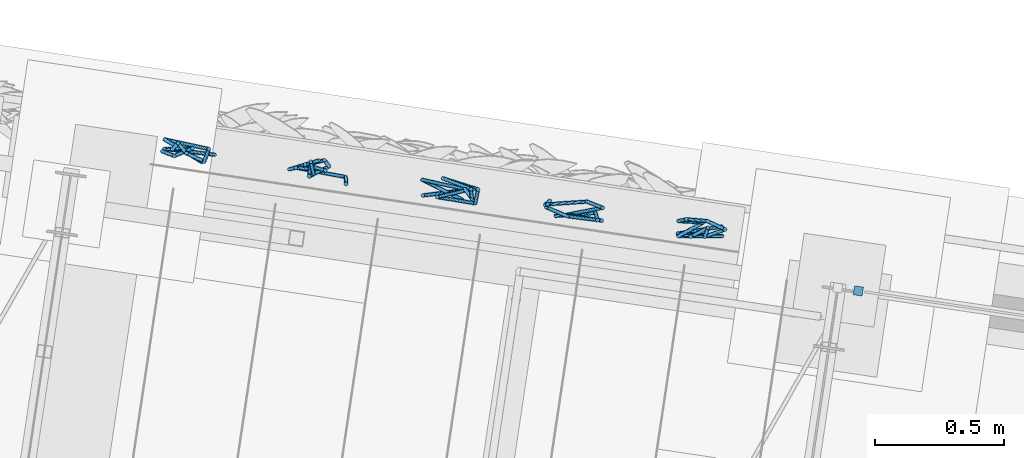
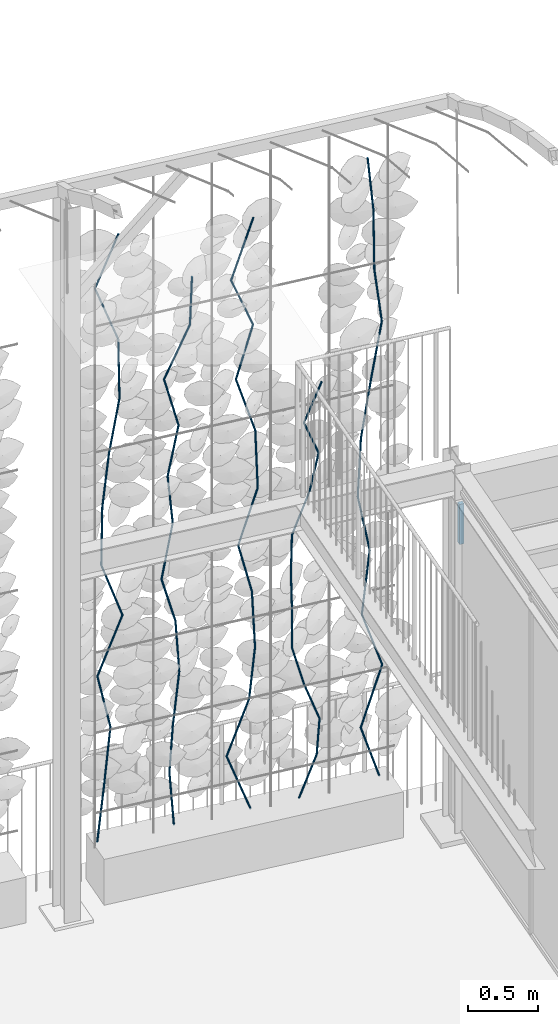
# One storey, part 113 of 142: 56 members, 1 element without a shape of its own.
"""IFC4 building model written with IfcOpenShell, lengths in metres."""

from ifc_helpers import new_model, si_unit, direction, frame, origin_with_axes, place, context, subcontext, project, spatial, rectangle, circle, extrude, material, material_profile, profile_set, profile_usage, type_object, element, aggregate, save


model = new_model("IFC4")

# Units and contexts
model_context = context("Model", 3, precision=1e-05, world=origin_with_axes(), true_north=direction((0.0, 1.0)))
body_context = subcontext(model_context, "Body", "Model", "MODEL_VIEW")
ifc_project = project(units=[si_unit("AREAUNIT", "SQUARE_METRE"), si_unit("VOLUMEUNIT", "CUBIC_METRE"), si_unit("LENGTHUNIT", "METRE")], contexts=[model_context])

# Site, building, storey
site_placement = place(None, origin_with_axes())
site = spatial("IfcSite", under=ifc_project, at=site_placement, Name="Lares · Rua das Mercês · artigo 4771")
building_placement = place(site_placement, frame((15.0, 9.7, 14.65), z_axis=(0.0, 0.0, 1.0), x_axis=(0.989015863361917, -0.147809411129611, 0.0)))
building = spatial("IfcBuilding", under=site, at=building_placement, Name="Casa Sobreposta")
storey_placement = place(building_placement, origin_with_axes())
storey = spatial("IfcBuildingStorey", under=building, at=storey_placement, Name="00 · Habitação e estacionamento", Elevation=14.65)

# Member
ifc_material_1 = material(Name="Aço pintado / Stahl lackiert", Category="steel")
ifc_material_profile_1 = material_profile(ifc_material_1, rectangle(XDim=0.035, YDim=0.035))
ifc_profile_set_1 = profile_set([ifc_material_profile_1], Name="R0.035")
ifc_profile_usage_1 = profile_usage(ifc_profile_set_1)
member_type_1 = type_object("IfcMemberType", Name="R0.035 / steel", PredefinedType="NOTDEFINED", material=ifc_profile_set_1)
member_1_placement = place(storey_placement, frame((0.08, 6.4, 2.35), z_axis=(0.0, 0.0, 1.0), x_axis=(1.0, 0.0, 0.0)))
element("IfcMember", 1, at=member_1_placement, inside=storey, type_object=member_type_1, material=ifc_profile_usage_1, Name="Rasgo norte 1 · montante", context=body_context, shape_type="SweptSolid", body=[
    extrude(rectangle(XDim=0.035, YDim=0.035), origin_with_axes(), (0.0, 0.0, 1.0), 0.35),
])

# Assembly, members
assembly_placement = place(storey_placement, origin_with_axes())
assembly = element("IfcElementAssembly", 2, at=assembly_placement, inside=storey, Name="Fachada sul e pátio · estrutura e trepadeiras", ObjectType="LIVING_SHADE_TRELLIS", PredefinedType="USERDEFINED")
ifc_material_2 = material(Name="Ramos de trepadeiras", Category="wood")
ifc_material_profile_2 = material_profile(ifc_material_2, circle(Radius=0.0075))
ifc_profile_set_2 = profile_set([ifc_material_profile_2], Name="D0.015")
ifc_profile_usage_2 = profile_usage(ifc_profile_set_2)
member_type_2 = type_object("IfcMemberType", Name="D0.015 / vine_wood", PredefinedType="NOTDEFINED", material=ifc_profile_set_2)
member_2_placement = place(assembly_placement, frame((-2.66241995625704, 6.53629999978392, 0.35), z_axis=(0.0980987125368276, -0.0226170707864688, 0.994919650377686), x_axis=(-0.224660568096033, -0.974437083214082, 0.0)))
member_2 = element("IfcMember", 3, at=member_2_placement, type_object=member_type_2, material=ifc_profile_usage_2, Name="Trepadeiras · ramo", context=body_context, shape_type="SweptSolid", body=[
    extrude(circle(Radius=0.0075), origin_with_axes(), (0.0, 0.0, 1.0), 0.482973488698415),
])
ifc_profile_usage_3 = profile_usage(ifc_profile_set_2)
member_3_placement = place(assembly_placement, frame((-2.61504087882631, 6.52537655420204, 0.830519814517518), z_axis=(0.135008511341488, 0.0817946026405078, 0.987462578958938), x_axis=(0.518168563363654, -0.855278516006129, 0.0)))
member_3 = element("IfcMember", 4, at=member_3_placement, type_object=member_type_2, material=ifc_profile_usage_3, Name="Trepadeiras · ramo", context=body_context, shape_type="SweptSolid", body=[
    extrude(circle(Radius=0.0075), origin_with_axes(), (0.0, 0.0, 1.0), 0.486620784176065),
])
ifc_profile_usage_4 = profile_usage(ifc_profile_set_2)
member_4_placement = place(assembly_placement, frame((-2.54934293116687, 6.56517950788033, 1.31103962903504), z_axis=(-0.218609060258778, -0.0389522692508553, 0.975034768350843), x_axis=(-0.17541938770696, 0.984493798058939, 0.0)))
member_4 = element("IfcMember", 5, at=member_4_placement, type_object=member_type_2, material=ifc_profile_usage_4, Name="Trepadeiras · ramo", context=body_context, shape_type="SweptSolid", body=[
    extrude(circle(Radius=0.0075), origin_with_axes(), (0.0, 0.0, 1.0), 0.492823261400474),
])
ifc_profile_usage_5 = profile_usage(ifc_profile_set_2)
member_5_placement = place(assembly_placement, frame((-2.65707856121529, 6.54598292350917, 1.79155944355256), z_axis=(0.376987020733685, 0.0134283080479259, 0.926121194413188), x_axis=(0.0355975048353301, -0.999366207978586, 0.0)))
member_5 = element("IfcMember", 6, at=member_5_placement, type_object=member_type_2, material=ifc_profile_usage_5, Name="Trepadeiras · ramo", context=body_context, shape_type="SweptSolid", body=[
    extrude(circle(Radius=0.0075), origin_with_axes(), (0.0, 0.0, 1.0), 0.518851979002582),
])
ifc_profile_usage_6 = profile_usage(ifc_profile_set_2)
member_6_placement = place(assembly_placement, frame((-2.46147809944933, 6.5529502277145, 2.27207925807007), z_axis=(-0.323902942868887, -0.0066980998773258, 0.946066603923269), x_axis=(-0.0206749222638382, 0.999786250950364, 0.0)))
member_6 = element("IfcMember", 7, at=member_6_placement, type_object=member_type_2, material=ifc_profile_usage_6, Name="Trepadeiras · ramo", context=body_context, shape_type="SweptSolid", body=[
    extrude(circle(Radius=0.0075), origin_with_axes(), (0.0, 0.0, 1.0), 0.507913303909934),
])
ifc_profile_usage_7 = profile_usage(ifc_profile_set_2)
member_7_placement = place(assembly_placement, frame((-2.62599271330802, 6.54954817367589, 2.75259907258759), z_axis=(0.0384024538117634, 0.0563066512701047, 0.997674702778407), x_axis=(0.826148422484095, -0.563452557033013, 0.0)))
member_7 = element("IfcMember", 8, at=member_7_placement, type_object=member_type_2, material=ifc_profile_usage_7, Name="Trepadeiras · ramo", context=body_context, shape_type="SweptSolid", body=[
    extrude(circle(Radius=0.0075), origin_with_axes(), (0.0, 0.0, 1.0), 0.481639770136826),
])
ifc_profile_usage_8 = profile_usage(ifc_profile_set_2)
member_8_placement = place(assembly_placement, frame((-2.60749656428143, 6.57666769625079, 3.23311888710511), z_axis=(0.0776410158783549, -0.0701661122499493, 0.994509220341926), x_axis=(-0.670490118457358, -0.741918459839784, 0.0)))
member_8 = element("IfcMember", 9, at=member_8_placement, type_object=member_type_2, material=ifc_profile_usage_8, Name="Trepadeiras · ramo", context=body_context, shape_type="SweptSolid", body=[
    extrude(circle(Radius=0.0075), origin_with_axes(), (0.0, 0.0, 1.0), 0.483172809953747),
])
ifc_profile_usage_9 = profile_usage(ifc_profile_set_2)
member_9_placement = place(assembly_placement, frame((-2.56998253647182, 6.54276533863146, 3.71363870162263), z_axis=(0.149871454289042, -0.0436983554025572, 0.987739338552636), x_axis=(-0.279916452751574, -0.960024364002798, 0.0)))
member_9 = element("IfcMember", 10, at=member_9_placement, type_object=member_type_2, material=ifc_profile_usage_9, Name="Trepadeiras · ramo", context=body_context, shape_type="SweptSolid", body=[
    extrude(circle(Radius=0.0075), origin_with_axes(), (0.0, 0.0, 1.0), 0.486484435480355),
])
ifc_profile_usage_10 = profile_usage(ifc_profile_set_2)
member_10_placement = place(assembly_placement, frame((-2.4970724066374, 6.52150676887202, 4.19415851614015), z_axis=(0.021645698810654, 0.103291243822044, 0.994415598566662), x_axis=(0.978740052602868, -0.205104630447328, 0.0)))
member_10 = element("IfcMember", 11, at=member_10_placement, type_object=member_type_2, material=ifc_profile_usage_10, Name="Trepadeiras · ramo", context=body_context, shape_type="SweptSolid", body=[
    extrude(circle(Radius=0.0075), origin_with_axes(), (0.0, 0.0, 1.0), 0.483218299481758),
])
ifc_profile_usage_11 = profile_usage(ifc_profile_set_2)
member_11_placement = place(assembly_placement, frame((-2.48661280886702, 6.57141898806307, 4.67467833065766), z_axis=(-0.34084918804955, 0.0223344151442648, 0.939852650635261), x_axis=(0.0653855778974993, 0.997860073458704, 0.0)))
member_11 = element("IfcMember", 12, at=member_11_placement, type_object=member_type_2, material=ifc_profile_usage_11, Name="Trepadeiras · ramo", context=body_context, shape_type="SweptSolid", body=[
    extrude(circle(Radius=0.0075), origin_with_axes(), (0.0, 0.0, 1.0), 0.511271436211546),
])
ifc_profile_usage_12 = profile_usage(ifc_profile_set_2)
member_12_placement = place(assembly_placement, frame((-2.66087926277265, 6.58283793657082, 5.15519814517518), z_axis=(0.304730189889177, -0.127303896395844, 0.943892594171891), x_axis=(-0.385474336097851, -0.92271855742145, 0.0)))
member_12 = element("IfcMember", 13, at=member_12_placement, type_object=member_type_2, material=ifc_profile_usage_12, Name="Trepadeiras · ramo", context=body_context, shape_type="SweptSolid", body=[
    extrude(circle(Radius=0.0075), origin_with_axes(), (0.0, 0.0, 1.0), 0.509083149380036),
])
ifc_profile_usage_13 = profile_usage(ifc_profile_set_2)
member_13_placement = place(assembly_placement, frame((-2.07205180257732, 6.53766977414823, 0.35), z_axis=(-0.0394783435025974, 0.10080487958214, 0.99412264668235), x_axis=(0.931139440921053, 0.364663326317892, 0.0)))
member_13 = element("IfcMember", 14, at=member_13_placement, type_object=member_type_2, material=ifc_profile_usage_13, Name="Trepadeiras · ramo", context=body_context, shape_type="SweptSolid", body=[
    extrude(circle(Radius=0.0075), origin_with_axes(), (0.0, 0.0, 1.0), 0.435980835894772),
])
ifc_profile_usage_14 = profile_usage(ifc_profile_set_2)
member_14_placement = place(assembly_placement, frame((-2.08926360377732, 6.58161876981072, 0.783418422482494), z_axis=(0.00546412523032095, -0.131646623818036, 0.991281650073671), x_axis=(-0.999139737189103, -0.0414702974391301, 0.0)))
member_14 = element("IfcMember", 15, at=member_14_placement, type_object=member_type_2, material=ifc_profile_usage_14, Name="Trepadeiras · ramo", context=body_context, shape_type="SweptSolid", body=[
    extrude(circle(Radius=0.0075), origin_with_axes(), (0.0, 0.0, 1.0), 0.437230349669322),
])
ifc_profile_usage_15 = profile_usage(ifc_profile_set_2)
member_15_placement = place(assembly_placement, frame((-2.08687452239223, 6.52405887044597, 1.21683684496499), z_axis=(0.159219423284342, 0.113560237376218, 0.980690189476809), x_axis=(0.580669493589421, -0.814139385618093, 0.0)))
member_15 = element("IfcMember", 16, at=member_15_placement, type_object=member_type_2, material=ifc_profile_usage_15, Name="Trepadeiras · ramo", context=body_context, shape_type="SweptSolid", body=[
    extrude(circle(Radius=0.0075), origin_with_axes(), (0.0, 0.0, 1.0), 0.441952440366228),
])
ifc_profile_usage_16 = profile_usage(ifc_profile_set_2)
member_16_placement = place(assembly_placement, frame((-2.01650710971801, 6.57424709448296, 1.65025526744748), z_axis=(-0.0483811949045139, 0.0474077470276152, 0.997703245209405), x_axis=(0.699884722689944, 0.714255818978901, 0.0)))
member_16 = element("IfcMember", 17, at=member_16_placement, type_object=member_type_2, material=ifc_profile_usage_16, Name="Trepadeiras · ramo", context=body_context, shape_type="SweptSolid", body=[
    extrude(circle(Radius=0.0075), origin_with_axes(), (0.0, 0.0, 1.0), 0.434416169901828),
])
ifc_profile_usage_17 = profile_usage(ifc_profile_set_2)
member_17_placement = place(assembly_placement, frame((-2.03752468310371, 6.59484178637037, 2.08367368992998), z_axis=(-0.28279176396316, -0.120579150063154, 0.95157211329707), x_axis=(-0.392222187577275, 0.919870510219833, -2.14779037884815e-17)))
member_17 = element("IfcMember", 18, at=member_17_placement, type_object=member_type_2, material=ifc_profile_usage_17, Name="Trepadeiras · ramo", context=body_context, shape_type="SweptSolid", body=[
    extrude(circle(Radius=0.0075), origin_with_axes(), (0.0, 0.0, 1.0), 0.455476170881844),
])
ifc_profile_usage_18 = profile_usage(ifc_profile_set_2)
member_18_placement = place(assembly_placement, frame((-2.16632959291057, 6.53992085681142, 2.51709211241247), z_axis=(0.235859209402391, 0.111435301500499, 0.965376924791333), x_axis=(0.427186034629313, -0.904163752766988, 0.0)))
member_18 = element("IfcMember", 19, at=member_18_placement, type_object=member_type_2, material=ifc_profile_usage_18, Name="Trepadeiras · ramo", context=body_context, shape_type="SweptSolid", body=[
    extrude(circle(Radius=0.0075), origin_with_axes(), (0.0, 0.0, 1.0), 0.448962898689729),
])
ifc_profile_usage_19 = profile_usage(ifc_profile_set_2)
member_19_placement = place(assembly_placement, frame((-2.0604375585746, 6.58995117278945, 2.95051053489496), z_axis=(-0.110181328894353, -0.0517286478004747, 0.992564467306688), x_axis=(-0.424980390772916, 0.905202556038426, 0.0)))
member_19 = element("IfcMember", 20, at=member_19_placement, type_object=member_type_2, material=ifc_profile_usage_19, Name="Trepadeiras · ramo", context=body_context, shape_type="SweptSolid", body=[
    extrude(circle(Radius=0.0075), origin_with_axes(), (0.0, 0.0, 1.0), 0.436665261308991),
])
ifc_profile_usage_20 = profile_usage(ifc_profile_set_2)
member_20_placement = place(assembly_placement, frame((-2.10854991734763, 6.56736306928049, 3.38392895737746), z_axis=(0.180465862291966, -0.0257609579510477, 0.983243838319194), x_axis=(-0.141314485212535, -0.989964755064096, 0.0)))
member_20 = element("IfcMember", 21, at=member_20_placement, type_object=member_type_2, material=ifc_profile_usage_20, Name="Trepadeiras · ramo", context=body_context, shape_type="SweptSolid", body=[
    extrude(circle(Radius=0.0075), origin_with_axes(), (0.0, 0.0, 1.0), 0.440804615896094),
])
ifc_profile_usage_21 = profile_usage(ifc_profile_set_2)
member_21_placement = place(assembly_placement, frame((-2.02899973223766, 6.55600752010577, 3.81734737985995), z_axis=(-0.254599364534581, -0.0136352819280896, 0.966950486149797), x_axis=(-0.053479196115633, 0.998568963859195, 0.0)))
member_21 = element("IfcMember", 22, at=member_21_placement, type_object=member_type_2, material=ifc_profile_usage_21, Name="Trepadeiras · ramo", context=body_context, shape_type="SweptSolid", body=[
    extrude(circle(Radius=0.0075), origin_with_axes(), (0.0, 0.0, 1.0), 0.448232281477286),
])
ifc_profile_usage_22 = profile_usage(ifc_profile_set_2)
member_22_placement = place(assembly_placement, frame((-2.14311938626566, 6.54989574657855, 4.25076580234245), z_axis=(0.413277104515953, -0.0153882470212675, 0.910475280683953), x_axis=(-0.0372089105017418, -0.999307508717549, 1.90952884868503e-18)))
member_22 = element("IfcMember", 23, at=member_22_placement, type_object=member_type_2, material=ifc_profile_usage_22, Name="Trepadeiras · ramo", context=body_context, shape_type="SweptSolid", body=[
    extrude(circle(Radius=0.0075), origin_with_axes(), (0.0, 0.0, 1.0), 0.476035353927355),
])
ifc_profile_usage_23 = profile_usage(ifc_profile_set_2)
member_23_placement = place(assembly_placement, frame((-1.94638487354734, 6.54257039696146, 4.68418422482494), z_axis=(0.0110075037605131, -0.061857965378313, 0.998024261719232), x_axis=(-0.984533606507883, -0.175195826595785, 0.0)))
member_23 = element("IfcMember", 24, at=member_23_placement, type_object=member_type_2, material=ifc_profile_usage_23, Name="Trepadeiras · ramo", context=body_context, shape_type="SweptSolid", body=[
    extrude(circle(Radius=0.0075), origin_with_axes(), (0.0, 0.0, 1.0), 0.434276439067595),
])
ifc_profile_usage_24 = profile_usage(ifc_profile_set_2)
member_24_placement = place(assembly_placement, frame((-1.4880449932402, 6.52300224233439, 0.35), z_axis=(-0.329931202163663, 0.106180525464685, 0.938014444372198), x_axis=(0.306352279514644, 0.951918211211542, 0.0)))
member_24 = element("IfcMember", 25, at=member_24_placement, type_object=member_type_2, material=ifc_profile_usage_24, Name="Trepadeiras · ramo", context=body_context, shape_type="SweptSolid", body=[
    extrude(circle(Radius=0.0075), origin_with_axes(), (0.0, 0.0, 1.0), 0.496490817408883),
])
ifc_profile_usage_25 = profile_usage(ifc_profile_set_2)
member_25_placement = place(assembly_placement, frame((-1.65185280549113, 6.57571989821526, 0.815715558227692), z_axis=(0.340456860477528, -0.0227078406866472, 0.939985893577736), x_axis=(-0.0665502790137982, -0.997783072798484, 0.0)))
member_25 = element("IfcMember", 26, at=member_25_placement, type_object=member_type_2, material=ifc_profile_usage_25, Name="Trepadeiras · ramo", context=body_context, shape_type="SweptSolid", body=[
    extrude(circle(Radius=0.0075), origin_with_axes(), (0.0, 0.0, 1.0), 0.495449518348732),
])
ifc_profile_usage_26 = profile_usage(ifc_profile_set_2)
member_26_placement = place(assembly_placement, frame((-1.48317361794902, 6.56446930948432, 1.28143111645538), z_axis=(0.0695333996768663, -0.0700445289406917, 0.995117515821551), x_axis=(-0.709691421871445, -0.704512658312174, 8.74520446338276e-18)))
member_26 = element("IfcMember", 27, at=member_26_placement, type_object=member_type_2, material=ifc_profile_usage_26, Name="Trepadeiras · ramo", context=body_context, shape_type="SweptSolid", body=[
    extrude(circle(Radius=0.0075), origin_with_axes(), (0.0, 0.0, 1.0), 0.468000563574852),
])
ifc_profile_usage_27 = profile_usage(ifc_profile_set_2)
member_27_placement = place(assembly_placement, frame((-1.45063194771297, 6.53168843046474, 1.74714667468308), z_axis=(-0.0210306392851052, 0.076673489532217, 0.996834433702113), x_axis=(0.964380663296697, 0.264518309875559, 0.0)))
member_27 = element("IfcMember", 28, at=member_27_placement, type_object=member_type_2, material=ifc_profile_usage_27, Name="Trepadeiras · ramo", context=body_context, shape_type="SweptSolid", body=[
    extrude(circle(Radius=0.0075), origin_with_axes(), (0.0, 0.0, 1.0), 0.467194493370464),
])
ifc_profile_usage_28 = profile_usage(ifc_profile_set_2)
member_28_placement = place(assembly_placement, frame((-1.46045734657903, 6.56750986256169, 2.21286223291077), z_axis=(-0.25756955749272, -0.101450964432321, 0.96091915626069), x_axis=(-0.366475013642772, 0.930427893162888, 0.0)))
member_28 = element("IfcMember", 29, at=member_28_placement, type_object=member_type_2, material=ifc_profile_usage_28, Name="Trepadeiras · ramo", context=body_context, shape_type="SweptSolid", body=[
    extrude(circle(Radius=0.0075), origin_with_axes(), (0.0, 0.0, 1.0), 0.484656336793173),
])
ifc_profile_usage_29 = profile_usage(ifc_profile_set_2)
member_29_placement = place(assembly_placement, frame((-1.58529006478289, 6.51834100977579, 2.67857779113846), z_axis=(0.305092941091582, -0.00422862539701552, 0.952313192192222), x_axis=(-0.0138587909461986, -0.999903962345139, 0.0)))
member_29 = element("IfcMember", 30, at=member_29_placement, type_object=member_type_2, material=ifc_profile_usage_29, Name="Trepadeiras · ramo", context=body_context, shape_type="SweptSolid", body=[
    extrude(circle(Radius=0.0075), origin_with_axes(), (0.0, 0.0, 1.0), 0.489036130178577),
])
ifc_profile_usage_30 = profile_usage(ifc_profile_set_2)
member_30_placement = place(assembly_placement, frame((-1.43608859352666, 6.51627305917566, 3.14429334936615), z_axis=(0.00592236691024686, 0.116385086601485, 0.993186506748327), x_axis=(0.998707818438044, -0.0508202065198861, 0.0)))
member_30 = element("IfcMember", 31, at=member_30_placement, type_object=member_type_2, material=ifc_profile_usage_30, Name="Trepadeiras · ramo", context=body_context, shape_type="SweptSolid", body=[
    extrude(circle(Radius=0.0075), origin_with_axes(), (0.0, 0.0, 1.0), 0.468910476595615),
])
ifc_profile_usage_31 = profile_usage(ifc_profile_set_2)
member_31_placement = place(assembly_placement, frame((-1.43331153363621, 6.57084724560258, 3.61000890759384), z_axis=(-0.287457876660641, 0.0458000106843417, 0.956697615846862), x_axis=(0.157343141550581, 0.987543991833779, 0.0)))
member_31 = element("IfcMember", 32, at=member_31_placement, type_object=member_type_2, material=ifc_profile_usage_31, Name="Trepadeiras · ramo", context=body_context, shape_type="SweptSolid", body=[
    extrude(circle(Radius=0.0075), origin_with_axes(), (0.0, 0.0, 1.0), 0.486794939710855),
])
ifc_profile_usage_32 = profile_usage(ifc_profile_set_2)
member_32_placement = place(assembly_placement, frame((-1.57324457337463, 6.59314245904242, 4.07572446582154), z_axis=(0.251593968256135, -0.0539595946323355, 0.966327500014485), x_axis=(-0.209702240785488, -0.977765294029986, 6.51461848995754e-18)))
member_32 = element("IfcMember", 33, at=member_32_placement, type_object=member_type_2, material=ifc_profile_usage_32, Name="Trepadeiras · ramo", context=body_context, shape_type="SweptSolid", body=[
    extrude(circle(Radius=0.0075), origin_with_axes(), (0.0, 0.0, 1.0), 0.481943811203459),
])
ifc_profile_usage_33 = profile_usage(ifc_profile_set_2)
member_33_placement = place(assembly_placement, frame((-1.45199041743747, 6.56713696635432, 4.54144002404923), z_axis=(-0.373949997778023, -0.10054929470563, 0.92198223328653), x_axis=(-0.259661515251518, 0.965699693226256, 0.0)))
member_33 = element("IfcMember", 34, at=member_33_placement, type_object=member_type_2, material=ifc_profile_usage_33, Name="Trepadeiras · ramo", context=body_context, shape_type="SweptSolid", body=[
    extrude(circle(Radius=0.0075), origin_with_axes(), (0.0, 0.0, 1.0), 0.505124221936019),
])
ifc_profile_usage_34 = profile_usage(ifc_profile_set_2)
member_34_placement = place(assembly_placement, frame((-1.64088161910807, 6.51634708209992, 5.00715558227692), z_axis=(0.381785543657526, 0.109148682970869, 0.917783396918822), x_axis=(0.274877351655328, -0.961479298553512, 0.0)))
member_34 = element("IfcMember", 35, at=member_34_placement, type_object=member_type_2, material=ifc_profile_usage_34, Name="Trepadeiras · ramo", context=body_context, shape_type="SweptSolid", body=[
    extrude(circle(Radius=0.0075), origin_with_axes(), (0.0, 0.0, 1.0), 0.507435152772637),
])
ifc_profile_usage_35 = profile_usage(ifc_profile_set_2)
member_35_placement = place(assembly_placement, frame((-1.12149175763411, 6.51383701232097, 0.35), z_axis=(0.419290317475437, 0.0947729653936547, 0.902891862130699), x_axis=(0.220470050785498, -0.975393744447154, 0.0)))
member_35 = element("IfcMember", 36, at=member_35_placement, type_object=member_type_2, material=ifc_profile_usage_35, Name="Trepadeiras · ramo", context=body_context, shape_type="SweptSolid", body=[
    extrude(circle(Radius=0.0075), origin_with_axes(), (0.0, 0.0, 1.0), 0.361500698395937),
])
ifc_profile_usage_36 = profile_usage(ifc_profile_set_2)
member_36_placement = place(assembly_placement, frame((-0.969918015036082, 6.54809750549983, 0.676396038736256), z_axis=(0.03525048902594, -0.0797363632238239, 0.996192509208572), x_axis=(-0.914609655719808, -0.404337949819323, 0.0)))
member_36 = element("IfcMember", 37, at=member_36_placement, type_object=member_type_2, material=ifc_profile_usage_36, Name="Trepadeiras · ramo", context=body_context, shape_type="SweptSolid", body=[
    extrude(circle(Radius=0.0075), origin_with_axes(), (0.0, 0.0, 1.0), 0.327643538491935),
])
ifc_profile_usage_37 = profile_usage(ifc_profile_set_2)
member_37_placement = place(assembly_placement, frame((-0.958368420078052, 6.52197240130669, 1.00279207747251), z_axis=(-0.3399758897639, -0.00695236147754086, 0.940408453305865), x_axis=(-0.0204452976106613, 0.999790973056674, 0.0)))
member_37 = element("IfcMember", 38, at=member_37_placement, type_object=member_type_2, material=ifc_profile_usage_37, Name="Trepadeiras · ramo", context=body_context, shape_type="SweptSolid", body=[
    extrude(circle(Radius=0.0075), origin_with_axes(), (0.0, 0.0, 1.0), 0.347079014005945),
])
ifc_profile_usage_38 = profile_usage(ifc_profile_set_2)
member_38_placement = place(assembly_placement, frame((-1.0763669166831, 6.51955938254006, 1.32918811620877), z_axis=(-0.252592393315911, 0.065290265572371, 0.965367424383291), x_axis=(0.250255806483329, 0.968179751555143, 0.0)))
member_38 = element("IfcMember", 39, at=member_38_placement, type_object=member_type_2, material=ifc_profile_usage_38, Name="Trepadeiras · ramo", context=body_context, shape_type="SweptSolid", body=[
    extrude(circle(Radius=0.0075), origin_with_axes(), (0.0, 0.0, 1.0), 0.338105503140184),
])
ifc_profile_usage_39 = profile_usage(ifc_profile_set_2)
member_39_placement = place(assembly_placement, frame((-1.16176979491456, 6.54163438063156, 1.65558415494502), z_axis=(0.028988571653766, 0.0810829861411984, 0.996285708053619), x_axis=(0.941630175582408, -0.336649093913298, 5.01770122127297e-18)))
member_39 = element("IfcMember", 40, at=member_39_placement, type_object=member_type_2, material=ifc_profile_usage_39, Name="Trepadeiras · ramo", context=body_context, shape_type="SweptSolid", body=[
    extrude(circle(Radius=0.0075), origin_with_axes(), (0.0, 0.0, 1.0), 0.3276128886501),
])
ifc_profile_usage_40 = profile_usage(ifc_profile_set_2)
member_40_placement = place(assembly_placement, frame((-1.15227276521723, 6.56819821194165, 1.98198019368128), z_axis=(-0.0447219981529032, -0.0524916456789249, 0.997619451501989), x_axis=(-0.761193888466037, 0.648524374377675, 0.0)))
member_40 = element("IfcMember", 41, at=member_40_placement, type_object=member_type_2, material=ifc_profile_usage_40, Name="Trepadeiras · ramo", context=body_context, shape_type="SweptSolid", body=[
    extrude(circle(Radius=0.0075), origin_with_axes(), (0.0, 0.0, 1.0), 0.327174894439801),
])
ifc_profile_usage_41 = profile_usage(ifc_profile_set_2)
member_41_placement = place(assembly_placement, frame((-1.16690468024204, 6.55102426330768, 2.30837623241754), z_axis=(0.0266388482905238, 0.00867833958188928, 0.999607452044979), x_axis=(0.999645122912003, -0.000231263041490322, -0.0266378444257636)))
member_41 = element("IfcMember", 42, at=member_41_placement, type_object=member_type_2, material=ifc_profile_usage_41, Name="Trepadeiras · ramo", context=body_context, shape_type="SweptSolid", body=[
    extrude(circle(Radius=0.0075), origin_with_axes(), (0.0, 0.0, 1.0), 0.326524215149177),
])
ifc_profile_usage_42 = profile_usage(ifc_profile_set_2)
member_42_placement = place(assembly_placement, frame((-1.1582064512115, 6.55385795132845, 2.63477227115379), z_axis=(0.413754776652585, 0.091014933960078, 0.905827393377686), x_axis=(0.214836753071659, -0.976649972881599, 0.0)))
member_42 = element("IfcMember", 43, at=member_42_placement, type_object=member_type_2, material=ifc_profile_usage_42, Name="Trepadeiras · ramo", context=body_context, shape_type="SweptSolid", body=[
    extrude(circle(Radius=0.0075), origin_with_axes(), (0.0, 0.0, 1.0), 0.360329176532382),
])
ifc_profile_usage_43 = profile_usage(ifc_profile_set_2)
member_43_placement = place(assembly_placement, frame((-1.00911853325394, 6.58665328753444, 2.96116830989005), z_axis=(0.190447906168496, -0.0442232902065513, 0.980700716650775), x_axis=(-0.226188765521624, -0.974083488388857, 0.0)))
member_43 = element("IfcMember", 44, at=member_43_placement, type_object=member_type_2, material=ifc_profile_usage_43, Name="Trepadeiras · ramo", context=body_context, shape_type="SweptSolid", body=[
    extrude(circle(Radius=0.0075), origin_with_axes(), (0.0, 0.0, 1.0), 0.332819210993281),
])
ifc_profile_usage_44 = profile_usage(ifc_profile_set_2)
member_44_placement = place(assembly_placement, frame((-0.945733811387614, 6.57193492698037, 3.2875643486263), z_axis=(-0.370023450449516, -0.13105571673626, 0.919732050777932), x_axis=(-0.333860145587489, 0.942622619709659, 0.0)))
member_44 = element("IfcMember", 45, at=member_44_placement, type_object=member_type_2, material=ifc_profile_usage_44, Name="Trepadeiras · ramo", context=body_context, shape_type="SweptSolid", body=[
    extrude(circle(Radius=0.0075), origin_with_axes(), (0.0, 0.0, 1.0), 0.354881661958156),
])
ifc_profile_usage_45 = profile_usage(ifc_profile_set_2)
member_45_placement = place(assembly_placement, frame((-1.07704834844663, 6.52542565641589, 3.61396038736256), z_axis=(0.383115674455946, -0.00913298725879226, 0.923655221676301), x_axis=(-0.023831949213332, -0.999715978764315, 0.0)))
member_45 = element("IfcMember", 46, at=member_45_placement, type_object=member_type_2, material=ifc_profile_usage_45, Name="Trepadeiras · ramo", context=body_context, shape_type="SweptSolid", body=[
    extrude(circle(Radius=0.0075), origin_with_axes(), (0.0, 0.0, 1.0), 0.353374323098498),
])
ifc_profile_usage_46 = profile_usage(ifc_profile_set_2)
member_46_placement = place(assembly_placement, frame((-0.480399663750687, 6.56797704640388, 0.35), z_axis=(-0.311350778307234, -0.0987830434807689, 0.945146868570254), x_axis=(-0.302416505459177, 0.953175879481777, 0.0)))
member_46 = element("IfcMember", 47, at=member_46_placement, type_object=member_type_2, material=ifc_profile_usage_46, Name="Trepadeiras · ramo", context=body_context, shape_type="SweptSolid", body=[
    extrude(circle(Radius=0.0075), origin_with_axes(), (0.0, 0.0, 1.0), 0.525354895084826),
])
ifc_profile_usage_47 = profile_usage(ifc_profile_set_2)
member_47_placement = place(assembly_placement, frame((-0.643969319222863, 6.51608089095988, 0.846537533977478), z_axis=(0.326477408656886, 0.0315753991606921, 0.944677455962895), x_axis=(0.0962662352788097, -0.995355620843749, 0.0)))
member_47 = element("IfcMember", 48, at=member_47_placement, type_object=member_type_2, material=ifc_profile_usage_47, Name="Trepadeiras · ramo", context=body_context, shape_type="SweptSolid", body=[
    extrude(circle(Radius=0.0075), origin_with_axes(), (0.0, 0.0, 1.0), 0.525615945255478),
])
ifc_profile_usage_48 = profile_usage(ifc_profile_set_2)
member_48_placement = place(assembly_placement, frame((-0.472367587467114, 6.53267742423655, 1.34307506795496), z_axis=(-0.317839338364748, -0.0486385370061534, 0.946896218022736), x_axis=(-0.151267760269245, 0.98849282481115, 0.0)))
member_48 = element("IfcMember", 49, at=member_48_placement, type_object=member_type_2, material=ifc_profile_usage_48, Name="Trepadeiras · ramo", context=body_context, shape_type="SweptSolid", body=[
    extrude(circle(Radius=0.0075), origin_with_axes(), (0.0, 0.0, 1.0), 0.524384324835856),
])
ifc_profile_usage_49 = profile_usage(ifc_profile_set_2)
member_49_placement = place(assembly_placement, frame((-0.639037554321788, 6.50717213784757, 1.83961260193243), z_axis=(0.170832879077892, 0.130242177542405, 0.976654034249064), x_axis=(0.606289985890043, -0.795243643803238, 0.0)))
member_49 = element("IfcMember", 50, at=member_49_placement, type_object=member_type_2, material=ifc_profile_usage_49, Name="Trepadeiras · ramo", context=body_context, shape_type="SweptSolid", body=[
    extrude(circle(Radius=0.0075), origin_with_axes(), (0.0, 0.0, 1.0), 0.508406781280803),
])
ifc_profile_usage_50 = profile_usage(ifc_profile_set_2)
member_50_placement = place(assembly_placement, frame((-0.552184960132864, 6.57338814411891, 2.33615013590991), z_axis=(-0.188994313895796, -0.0178059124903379, 0.98181673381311), x_axis=(-0.0937986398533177, 0.995591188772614, 0.0)))
member_50 = element("IfcMember", 51, at=member_50_placement, type_object=member_type_2, material=ifc_profile_usage_50, Name="Trepadeiras · ramo", context=body_context, shape_type="SweptSolid", body=[
    extrude(circle(Radius=0.0075), origin_with_axes(), (0.0, 0.0, 1.0), 0.505733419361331),
])
ifc_profile_usage_51 = profile_usage(ifc_profile_set_2)
member_51_placement = place(assembly_placement, frame((-0.647765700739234, 6.56438309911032, 2.83268766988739), z_axis=(0.0575558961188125, 0.0225222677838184, 0.998088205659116), x_axis=(0.364404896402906, -0.931240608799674, 0.0)))
member_51 = element("IfcMember", 52, at=member_51_placement, type_object=member_type_2, material=ifc_profile_usage_51, Name="Trepadeiras · ramo", context=body_context, shape_type="SweptSolid", body=[
    extrude(circle(Radius=0.0075), origin_with_axes(), (0.0, 0.0, 1.0), 0.497488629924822),
])
ifc_profile_usage_52 = profile_usage(ifc_profile_set_2)
member_52_placement = place(assembly_placement, frame((-0.61913229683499, 6.57558767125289, 3.32922520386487), z_axis=(0.160045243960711, 0.0106902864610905, 0.987051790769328), x_axis=(0.0666468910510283, -0.997776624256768, 0.0)))
member_52 = element("IfcMember", 53, at=member_52_placement, type_object=member_type_2, material=ifc_profile_usage_52, Name="Trepadeiras · ramo", context=body_context, shape_type="SweptSolid", body=[
    extrude(circle(Radius=0.0075), origin_with_axes(), (0.0, 0.0, 1.0), 0.503051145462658),
])
ifc_profile_usage_53 = profile_usage(ifc_profile_set_2)
member_53_placement = place(assembly_placement, frame((-0.538621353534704, 6.58096543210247, 3.82576273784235), z_axis=(0.146833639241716, -0.0429633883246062, 0.988227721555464), x_axis=(-0.280824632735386, -0.959759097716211, 0.0)))
member_53 = element("IfcMember", 54, at=member_53_placement, type_object=member_type_2, material=ifc_profile_usage_53, Name="Trepadeiras · ramo", context=body_context, shape_type="SweptSolid", body=[
    extrude(circle(Radius=0.0075), origin_with_axes(), (0.0, 0.0, 1.0), 0.502452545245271),
])
ifc_profile_usage_54 = profile_usage(ifc_profile_set_2)
member_54_placement = place(assembly_placement, frame((-0.464844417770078, 6.55937836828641, 4.32230027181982), z_axis=(-0.145740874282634, -0.0785755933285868, 0.986197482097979), x_axis=(-0.474566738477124, 0.880219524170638, 0.0)))
member_54 = element("IfcMember", 55, at=member_54_placement, type_object=member_type_2, material=ifc_profile_usage_54, Name="Trepadeiras · ramo", context=body_context, shape_type="SweptSolid", body=[
    extrude(circle(Radius=0.0075), origin_with_axes(), (0.0, 0.0, 1.0), 0.503486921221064),
])
ifc_profile_usage_55 = profile_usage(ifc_profile_set_2)
member_55_placement = place(assembly_placement, frame((-0.538223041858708, 6.51981658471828, 4.8188378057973), z_axis=(0.0151393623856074, 0.0732132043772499, 0.997201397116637), x_axis=(0.979282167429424, -0.202500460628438, 0.0)))
member_55 = element("IfcMember", 56, at=member_55_placement, type_object=member_type_2, material=ifc_profile_usage_55, Name="Trepadeiras · ramo", context=body_context, shape_type="SweptSolid", body=[
    extrude(circle(Radius=0.0075), origin_with_axes(), (0.0, 0.0, 1.0), 0.497931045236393),
])
ifc_profile_usage_56 = profile_usage(ifc_profile_set_2)
member_56_placement = place(assembly_placement, frame((-0.53068468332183, 6.55627171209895, 5.31537533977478), z_axis=(-0.123411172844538, -0.0880727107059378, 0.988439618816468), x_axis=(-0.580896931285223, 0.813977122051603, 0.0)))
member_56 = element("IfcMember", 57, at=member_56_placement, type_object=member_type_2, material=ifc_profile_usage_56, Name="Trepadeiras · ramo", context=body_context, shape_type="SweptSolid", body=[
    extrude(circle(Radius=0.0075), origin_with_axes(), (0.0, 0.0, 1.0), 0.502344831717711),
])
aggregate(assembly, [member_2, member_3, member_4, member_5, member_6, member_7, member_8, member_9, member_10, member_11, member_12, member_13, member_14, member_15, member_16, member_17, member_18, member_19, member_20, member_21, member_22, member_23, member_24, member_25, member_26, member_27, member_28, member_29, member_30, member_31, member_32, member_33, member_34, member_35, member_36, member_37, member_38, member_39, member_40, member_41, member_42, member_43, member_44, member_45, member_46, member_47, member_48, member_49, member_50, member_51, member_52, member_53, member_54, member_55, member_56])

save(model, "model.ifc")
